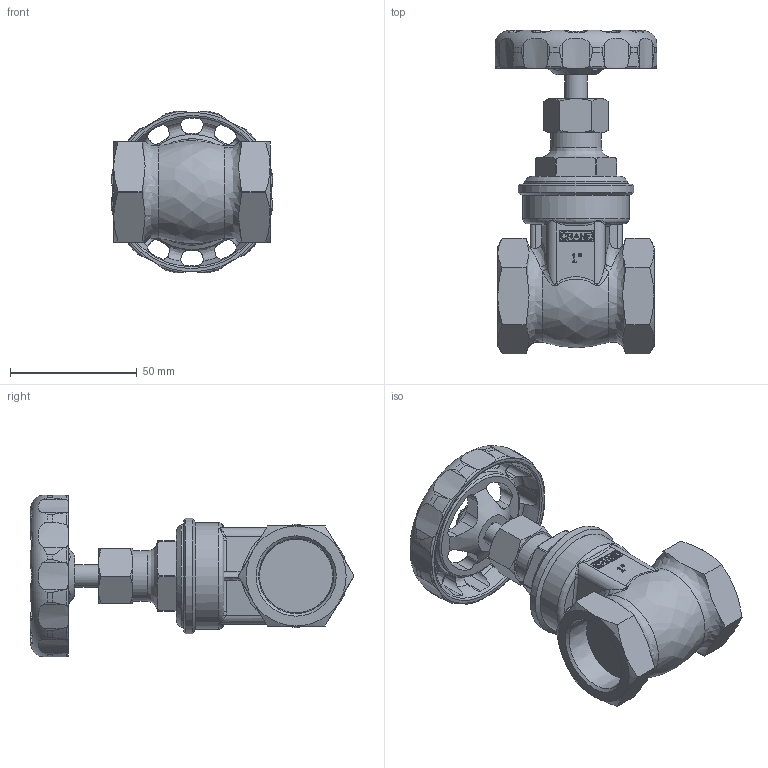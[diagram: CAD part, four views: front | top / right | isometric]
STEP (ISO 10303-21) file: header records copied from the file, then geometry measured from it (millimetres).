
FILE_DESCRIPTION((''),'2;1');
FILE_NAME('P:\Fastrack\53972_CRANE 3D\Gate Valves\Work Space\Handwheel\D151_1in\D151_1in.stp','2011-03-11T11:01:45',('btaylor'),(''),'Autodesk Inventor 2008','Autodesk Inventor 2008','');
FILE_SCHEMA(('AUTOMOTIVE_DESIGN { 1 0 10303 214 1 1 1 1 }'));
Length unit declared in the file: millimetre
Products named in the file (1): D151_1in
Bounding box: 63.81 x 127.86 x 63.81 mm (x, y, z)
Volume: 134929.4 mm3; surface area: 33056.2 mm2
Topology: 1 solids, 1 shells, 661 faces, 1870 edges, 1225 vertices
Faces by surface type: plane 289, cylinder 189, bspline 132, cone 40, torus 11
Full cylindrical faces by diameter (mm): 6 x2, 9 x1, 20 x1, 21 x1, 34.565 x1, 40.7 x1, 42 x1, 45.5 x1
Entity records: 29992 total; most frequent: CARTESIAN_POINT 13760, ORIENTED_EDGE 3648, DIRECTION 2580, EDGE_CURVE 1824, VERTEX_POINT 1210, VECTOR 862, LINE 862, AXIS2_PLACEMENT_3D 859
